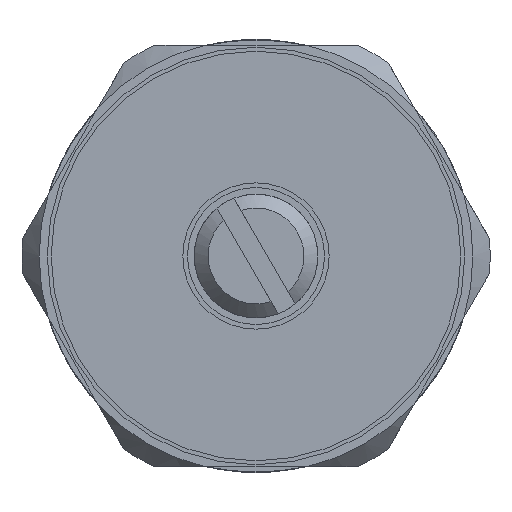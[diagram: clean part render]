
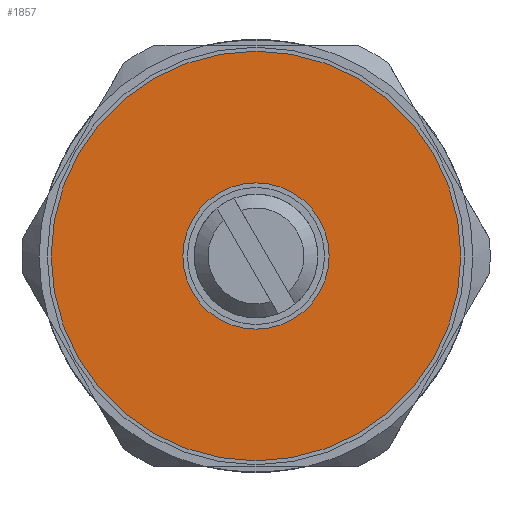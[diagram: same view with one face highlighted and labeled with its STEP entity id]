
A CAD part, left-side view. The second image highlights one B-rep face of the part: STEP entity #1857.
In plain terms, the highlighted planar face has unit normal (-1, 0, 0).
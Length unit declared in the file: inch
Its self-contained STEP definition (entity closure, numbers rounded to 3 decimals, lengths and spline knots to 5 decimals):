
#94=FACE_BOUND('',#275,.T.);
#118=PLANE('',#2017);
#170=FACE_OUTER_BOUND('',#274,.T.);
#274=EDGE_LOOP('',(#1299,#1300));
#275=EDGE_LOOP('',(#1301,#1302));
#543=CIRCLE('',#1962,0.14764);
#544=CIRCLE('',#1963,0.14764);
#573=CIRCLE('',#2018,0.41339);
#574=CIRCLE('',#2019,0.41339);
#680=VERTEX_POINT('',#2752);
#681=VERTEX_POINT('',#2753);
#734=VERTEX_POINT('',#2961);
#735=VERTEX_POINT('',#2962);
#870=EDGE_CURVE('',#680,#681,#543,.T.);
#871=EDGE_CURVE('',#681,#680,#544,.T.);
#951=EDGE_CURVE('',#734,#735,#573,.T.);
#952=EDGE_CURVE('',#735,#734,#574,.T.);
#1299=ORIENTED_EDGE('',*,*,#951,.T.);
#1300=ORIENTED_EDGE('',*,*,#952,.T.);
#1301=ORIENTED_EDGE('',*,*,#870,.T.);
#1302=ORIENTED_EDGE('',*,*,#871,.T.);
#1857=ADVANCED_FACE('',(#170,#94),#118,.T.);
#1962=AXIS2_PLACEMENT_3D('',#2754,#2203,#2204);
#1963=AXIS2_PLACEMENT_3D('',#2755,#2205,#2206);
#2017=AXIS2_PLACEMENT_3D('',#2960,#2340,#2341);
#2018=AXIS2_PLACEMENT_3D('',#2963,#2342,#2343);
#2019=AXIS2_PLACEMENT_3D('',#2964,#2344,#2345);
#2203=DIRECTION('center_axis',(1.,0.,0.));
#2204=DIRECTION('ref_axis',(0.,0.866,-0.5));
#2205=DIRECTION('center_axis',(1.,0.,0.));
#2206=DIRECTION('ref_axis',(0.,0.866,-0.5));
#2340=DIRECTION('center_axis',(-1.,0.,0.));
#2341=DIRECTION('ref_axis',(0.,0.866,-0.5));
#2342=DIRECTION('center_axis',(-1.,0.,0.));
#2343=DIRECTION('ref_axis',(0.,0.866,-0.5));
#2344=DIRECTION('center_axis',(-1.,0.,0.));
#2345=DIRECTION('ref_axis',(0.,0.866,-0.5));
#2752=CARTESIAN_POINT('',(-2.24602,0.22916,-0.27861));
#2753=CARTESIAN_POINT('',(-2.24602,-0.02656,-0.13098));
#2754=CARTESIAN_POINT('Origin',(-2.24602,0.1013,-0.2048));
#2755=CARTESIAN_POINT('Origin',(-2.24602,0.1013,-0.2048));
#2960=CARTESIAN_POINT('Origin',(-2.24602,0.1013,-0.2048));
#2961=CARTESIAN_POINT('',(-2.24602,0.4593,-0.41149));
#2962=CARTESIAN_POINT('',(-2.24602,-0.2567,0.0019));
#2963=CARTESIAN_POINT('Origin',(-2.24602,0.1013,-0.2048));
#2964=CARTESIAN_POINT('Origin',(-2.24602,0.1013,-0.2048));
